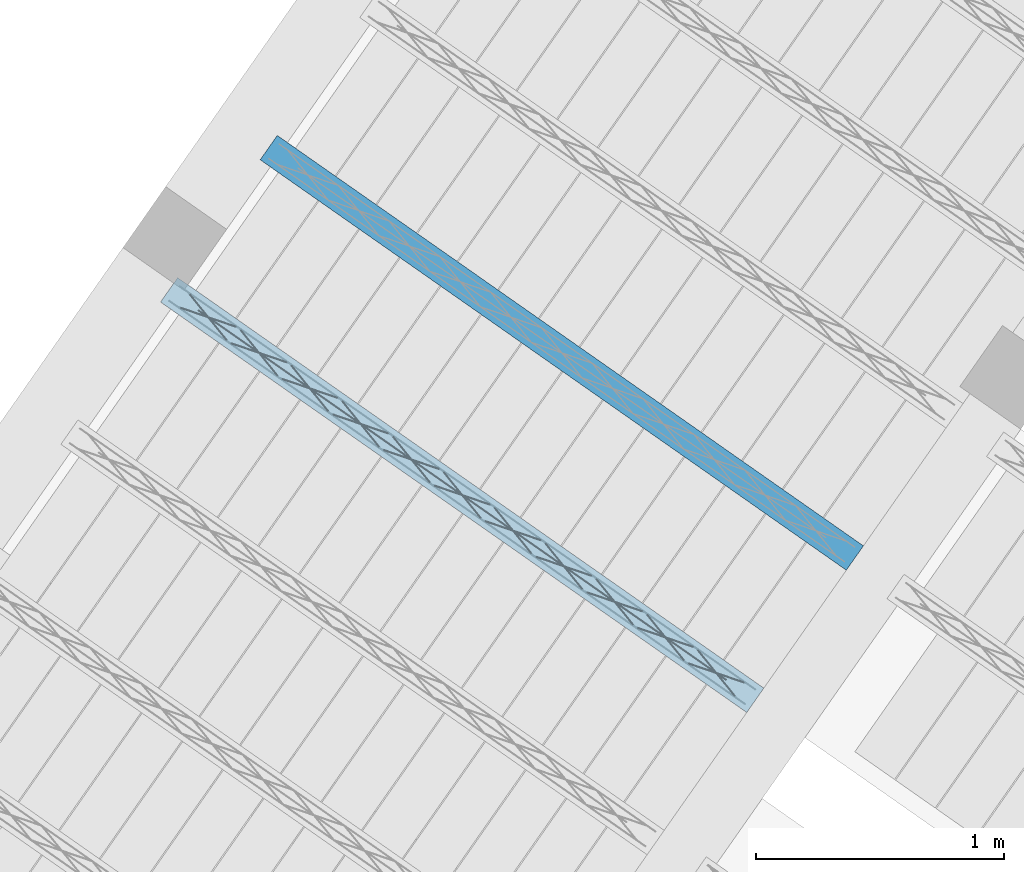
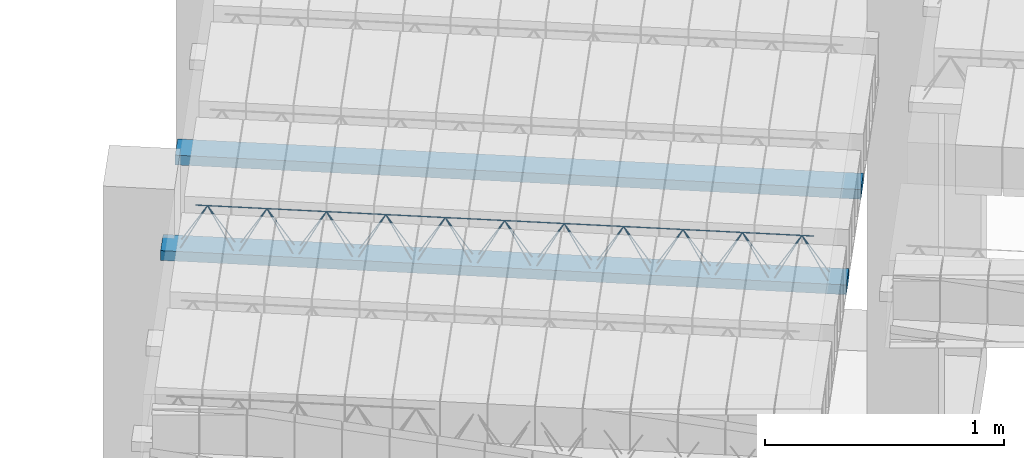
# One storey, part 33 of 80: 2 beams.
"""IFC2X3 building model written with IfcOpenShell, lengths in metres."""

from ifc_helpers import new_model, entity, si_unit, converted_unit, derived_unit, direction, frame, frame_2d, origin, origin_2d_with_axis, place, context, subcontext, project, spatial, rectangle, circle, extrude, material, type_object, element, save


model = new_model("IFC2X3")

# Units and contexts
model_context = context("Model", 3, precision=1e-05, world=origin(), true_north=direction((6.123031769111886e-17, 1.0)))
body_context = subcontext(model_context, "Body", "Model", "MODEL_VIEW")
ifc_project = project(units=[si_unit("LENGTHUNIT", "METRE"), si_unit("AREAUNIT", "SQUARE_METRE"), si_unit("VOLUMEUNIT", "CUBIC_METRE"), converted_unit("PLANEANGLEUNIT", "DEGREE", entity("IfcPlaneAngleMeasure", 0.017453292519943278), si_unit("PLANEANGLEUNIT", "RADIAN"), dimensions=[0, 0, 0, 0, 0, 0, 0]), si_unit("MASSUNIT", "GRAM", prefix="KILO"), derived_unit("MASSDENSITYUNIT", [(si_unit("MASSUNIT", "GRAM", prefix="KILO"), 1), (si_unit("LENGTHUNIT", "METRE"), -3)]), derived_unit("IONCONCENTRATIONUNIT", [(si_unit("MASSUNIT", "GRAM", prefix="KILO"), 1), (si_unit("LENGTHUNIT", "METRE"), -3)]), derived_unit("MOMENTOFINERTIAUNIT", [(si_unit("LENGTHUNIT", "METRE"), 4)]), si_unit("TIMEUNIT", "SECOND"), si_unit("FREQUENCYUNIT", "HERTZ"), si_unit("THERMODYNAMICTEMPERATUREUNIT", "DEGREE_CELSIUS"), derived_unit("THERMALTRANSMITTANCEUNIT", [(si_unit("MASSUNIT", "GRAM", prefix="KILO"), 1), (si_unit("THERMODYNAMICTEMPERATUREUNIT", "KELVIN"), -1), (si_unit("TIMEUNIT", "SECOND"), -3)]), derived_unit("THERMALCONDUCTANCEUNIT", [(si_unit("MASSUNIT", "GRAM", prefix="KILO"), 1), (si_unit("THERMODYNAMICTEMPERATUREUNIT", "KELVIN"), -1), (si_unit("TIMEUNIT", "SECOND"), -3), (si_unit("LENGTHUNIT", "METRE"), 1)]), derived_unit("VOLUMETRICFLOWRATEUNIT", [(si_unit("LENGTHUNIT", "METRE", prefix="DECI"), 3), (si_unit("TIMEUNIT", "SECOND"), -1)]), derived_unit("MASSFLOWRATEUNIT", [(si_unit("MASSUNIT", "GRAM", prefix="KILO"), 1), (si_unit("TIMEUNIT", "SECOND"), -1)]), derived_unit("ROTATIONALFREQUENCYUNIT", [(si_unit("TIMEUNIT", "SECOND"), -1)]), si_unit("ELECTRICCURRENTUNIT", "AMPERE"), si_unit("ELECTRICVOLTAGEUNIT", "VOLT"), si_unit("POWERUNIT", "WATT"), si_unit("FORCEUNIT", "NEWTON", prefix="KILO"), si_unit("ILLUMINANCEUNIT", "LUX"), si_unit("LUMINOUSFLUXUNIT", "LUMEN"), si_unit("LUMINOUSINTENSITYUNIT", "CANDELA"), si_unit("ENERGYUNIT", "JOULE"), derived_unit("USERDEFINED", [(si_unit("MASSUNIT", "GRAM", prefix="KILO"), -1), (si_unit("LENGTHUNIT", "METRE"), -2), (si_unit("TIMEUNIT", "SECOND"), 3), (si_unit("LUMINOUSFLUXUNIT", "LUMEN"), 1)]), derived_unit("USERDEFINED", [(si_unit("MASSUNIT", "GRAM", prefix="KILO"), 1), (si_unit("TIMEUNIT", "SECOND"), -3), (si_unit("LENGTHUNIT", "METRE"), 3), (si_unit("ELECTRICCURRENTUNIT", "AMPERE"), -2)]), derived_unit("SOUNDPOWERUNIT", [(si_unit("MASSUNIT", "GRAM", prefix="KILO"), 1), (si_unit("TIMEUNIT", "SECOND"), -3), (si_unit("LENGTHUNIT", "METRE"), 2)]), derived_unit("SOUNDPRESSUREUNIT", [(si_unit("MASSUNIT", "GRAM", prefix="KILO"), 1), (si_unit("LENGTHUNIT", "METRE"), -1), (si_unit("TIMEUNIT", "SECOND"), -2)]), derived_unit("LINEARVELOCITYUNIT", [(si_unit("LENGTHUNIT", "METRE"), 1), (si_unit("TIMEUNIT", "SECOND"), -1)]), si_unit("PRESSUREUNIT", "PASCAL"), derived_unit("USERDEFINED", [(si_unit("MASSUNIT", "GRAM", prefix="KILO"), 1), (si_unit("LENGTHUNIT", "METRE"), -2), (si_unit("TIMEUNIT", "SECOND"), -2)]), derived_unit("LINEARFORCEUNIT", [(si_unit("MASSUNIT", "GRAM", prefix="KILO"), 1), (si_unit("TIMEUNIT", "SECOND"), -2)]), derived_unit("PLANARFORCEUNIT", [(si_unit("MASSUNIT", "GRAM", prefix="KILO"), 1), (si_unit("LENGTHUNIT", "METRE"), -1), (si_unit("TIMEUNIT", "SECOND"), -2)]), derived_unit("SPECIFICHEATCAPACITYUNIT", [(si_unit("THERMODYNAMICTEMPERATUREUNIT", "KELVIN"), -1), (si_unit("LENGTHUNIT", "METRE"), 2), (si_unit("TIMEUNIT", "SECOND"), -2)]), derived_unit("HEATFLUXDENSITYUNIT", [(si_unit("MASSUNIT", "GRAM", prefix="KILO"), 1), (si_unit("TIMEUNIT", "SECOND"), -3)]), derived_unit("HEATINGVALUEUNIT", [(si_unit("LENGTHUNIT", "METRE"), 2), (si_unit("TIMEUNIT", "SECOND"), -2)]), derived_unit("VAPORPERMEABILITYUNIT", [(si_unit("LENGTHUNIT", "METRE"), -1), (si_unit("TIMEUNIT", "SECOND"), 1)]), derived_unit("DYNAMICVISCOSITYUNIT", [(si_unit("MASSUNIT", "GRAM", prefix="KILO"), 1), (si_unit("TIMEUNIT", "SECOND"), -1), (si_unit("LENGTHUNIT", "METRE"), -1)]), derived_unit("THERMALEXPANSIONCOEFFICIENTUNIT", [(si_unit("THERMODYNAMICTEMPERATUREUNIT", "KELVIN"), -1)]), derived_unit("MODULUSOFELASTICITYUNIT", [(si_unit("MASSUNIT", "GRAM", prefix="KILO"), 1), (si_unit("LENGTHUNIT", "METRE"), -1), (si_unit("TIMEUNIT", "SECOND"), -2)]), derived_unit("ISOTHERMALMOISTURECAPACITYUNIT", [(si_unit("MASSUNIT", "GRAM", prefix="KILO"), -1), (si_unit("LENGTHUNIT", "METRE"), 3)]), derived_unit("MOISTUREDIFFUSIVITYUNIT", [(si_unit("TIMEUNIT", "SECOND"), -1), (si_unit("LENGTHUNIT", "METRE"), 2)]), derived_unit("MASSPERLENGTHUNIT", [(si_unit("MASSUNIT", "GRAM", prefix="KILO"), 1), (si_unit("LENGTHUNIT", "METRE"), -1)]), derived_unit("THERMALRESISTANCEUNIT", [(si_unit("MASSUNIT", "GRAM", prefix="KILO"), -1), (si_unit("TIMEUNIT", "SECOND"), 3), (si_unit("THERMODYNAMICTEMPERATUREUNIT", "KELVIN"), 1)]), derived_unit("ACCELERATIONUNIT", [(si_unit("LENGTHUNIT", "METRE"), 1), (si_unit("TIMEUNIT", "SECOND"), -2)]), derived_unit("ANGULARVELOCITYUNIT", [(si_unit("TIMEUNIT", "SECOND"), -1), (si_unit("PLANEANGLEUNIT", "RADIAN"), 1)]), derived_unit("LINEARSTIFFNESSUNIT", [(si_unit("MASSUNIT", "GRAM", prefix="KILO"), 1), (si_unit("TIMEUNIT", "SECOND"), -2)]), derived_unit("WARPINGCONSTANTUNIT", [(si_unit("LENGTHUNIT", "METRE"), 6)]), derived_unit("LINEARMOMENTUNIT", [(si_unit("MASSUNIT", "GRAM", prefix="KILO"), 1), (si_unit("LENGTHUNIT", "METRE"), 1), (si_unit("TIMEUNIT", "SECOND"), -2)]), derived_unit("TORQUEUNIT", [(si_unit("MASSUNIT", "GRAM", prefix="KILO"), 1), (si_unit("LENGTHUNIT", "METRE"), 2), (si_unit("TIMEUNIT", "SECOND"), -2)])], contexts=[model_context])

# Site, building, storey
site_placement = place(None, origin())
site = spatial("IfcSite", under=ifc_project, at=site_placement, Name="Default", CompositionType="ELEMENT")
building_placement = place(site_placement, origin())
building = spatial("IfcBuilding", under=site, at=building_placement, CompositionType="ELEMENT")
storey_placement = place(building_placement, frame((0.0, 0.0, 95.94)))
storey = spatial("IfcBuildingStorey", under=building, at=storey_placement, Name="PB", CompositionType="ELEMENT", Elevation=95.94)

# Beams
beam_type = type_object("IfcBeamType", Name="Vigueta 10 (Paño 2) (Mf = 10.63)", PredefinedType="JOIST")
beam_1_placement = place(storey_placement, origin())
element("IfcBeam", 1, at=beam_1_placement, inside=storey, type_object=beam_type, Name="Vigueta 10 (Paño 2) (Mf = 10.63)", ObjectType="Mf = 10.63", context=body_context, shape_type="SweptSolid", body=[
    extrude(rectangle(XDim=2.884461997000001, YDim=0.12000000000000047, at=frame_2d((-3.3306690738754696e-16, -6.591949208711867e-17), x_axis=(1.0, 0.0))), frame((3.614935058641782, 7.052220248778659, 2.82), z_axis=(0.0, 0.0, 1.0), x_axis=(0.8191520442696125, -0.5735764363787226, 0.0)), (0.0, 0.0, 1.0), 0.04999999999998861),
    extrude(circle(Radius=0.0025, at=origin_2d_with_axis()), frame((2.4325394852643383, 7.836194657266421, 2.8449999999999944), z_axis=(0.8191520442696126, -0.5735764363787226, 0.0), x_axis=(-0.5735764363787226, -0.8191520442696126, 0.0)), (0.0, 0.0, 1.0), 2.836461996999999),
    extrude(circle(Radius=0.0025, at=origin_2d_with_axis()), frame((2.5500374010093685, 7.797869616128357, 3.069999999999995), z_axis=(0.8191520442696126, -0.5735764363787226, 0.0), x_axis=(-0.5735764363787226, -0.8191520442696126, 0.0)), (0.0, 0.0, 1.0), 2.6),
    extrude(circle(Radius=0.0025, at=origin_2d_with_axis()), frame((4.720620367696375, 6.2340631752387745, 2.8449999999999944), z_axis=(-0.3145304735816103, 0.389334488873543, 0.8657304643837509), x_axis=(-0.7778747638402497, -0.6284193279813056, 0.0)), (0.0, 0.0, 1.0), 0.2598961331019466),
    extrude(circle(Radius=0.0025, at=origin_2d_with_axis()), frame((4.515832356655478, 6.377457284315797, 2.8449999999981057), z_axis=(0.47343050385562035, -0.1624017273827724, 0.8657304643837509), x_axis=(-0.3244721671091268, -0.9458952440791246, 0.0)), (0.0, 0.0, 1.0), 0.25989613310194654),
    extrude(circle(Radius=0.0025, at=origin_2d_with_axis()), frame((4.515832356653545, 6.3774572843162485, 2.8449999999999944), z_axis=(-0.3145304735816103, 0.389334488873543, 0.8657304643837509), x_axis=(-0.7778747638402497, -0.6284193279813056, 0.0)), (0.0, 0.0, 1.0), 0.2598961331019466),
    extrude(circle(Radius=0.0025, at=origin_2d_with_axis()), frame((4.311044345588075, 6.520851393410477, 2.8449999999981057), z_axis=(0.47343050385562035, -0.1624017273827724, 0.8657304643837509), x_axis=(-0.3244721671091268, -0.9458952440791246, 0.0)), (0.0, 0.0, 1.0), 0.25989613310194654),
    extrude(circle(Radius=0.0025, at=origin_2d_with_axis()), frame((4.311044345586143, 6.520851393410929, 2.8449999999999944), z_axis=(-0.3145304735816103, 0.389334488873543, 0.8657304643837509), x_axis=(-0.7778747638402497, -0.6284193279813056, 0.0)), (0.0, 0.0, 1.0), 0.2598961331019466),
    extrude(circle(Radius=0.0025, at=origin_2d_with_axis()), frame((4.106256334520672, 6.664245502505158, 2.8449999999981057), z_axis=(0.47343050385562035, -0.1624017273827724, 0.8657304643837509), x_axis=(-0.3244721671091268, -0.9458952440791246, 0.0)), (0.0, 0.0, 1.0), 0.25989613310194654),
    extrude(circle(Radius=0.0025, at=origin_2d_with_axis()), frame((4.106256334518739, 6.664245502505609, 2.8449999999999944), z_axis=(-0.3145304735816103, 0.389334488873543, 0.8657304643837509), x_axis=(-0.7778747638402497, -0.6284193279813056, 0.0)), (0.0, 0.0, 1.0), 0.2598961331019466),
    extrude(circle(Radius=0.0025, at=origin_2d_with_axis()), frame((3.901468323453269, 6.807639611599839, 2.8449999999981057), z_axis=(0.47343050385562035, -0.1624017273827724, 0.8657304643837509), x_axis=(-0.3244721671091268, -0.9458952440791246, 0.0)), (0.0, 0.0, 1.0), 0.25989613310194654),
    extrude(circle(Radius=0.0025, at=origin_2d_with_axis()), frame((3.9014683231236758, 6.807639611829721, 2.8449999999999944), z_axis=(-0.3145304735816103, 0.389334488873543, 0.8657304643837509), x_axis=(-0.7778747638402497, -0.6284193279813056, 0.0)), (0.0, 0.0, 1.0), 0.2598961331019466),
    extrude(circle(Radius=0.0025, at=origin_2d_with_axis()), frame((3.6966803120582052, 6.95103372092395, 2.8449999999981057), z_axis=(0.47343050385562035, -0.1624017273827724, 0.8657304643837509), x_axis=(-0.3244721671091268, -0.9458952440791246, 0.0)), (0.0, 0.0, 1.0), 0.25989613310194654),
    extrude(circle(Radius=0.0025, at=origin_2d_with_axis()), frame((3.696680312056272, 6.951033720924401, 2.8449999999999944), z_axis=(-0.3145304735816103, 0.389334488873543, 0.8657304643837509), x_axis=(-0.7778747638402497, -0.6284193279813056, 0.0)), (0.0, 0.0, 1.0), 0.2598961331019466),
    extrude(circle(Radius=0.0025, at=origin_2d_with_axis()), frame((3.4918923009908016, 7.094427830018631, 2.8449999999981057), z_axis=(0.47343050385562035, -0.1624017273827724, 0.8657304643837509), x_axis=(-0.3244721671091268, -0.9458952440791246, 0.0)), (0.0, 0.0, 1.0), 0.25989613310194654),
    extrude(circle(Radius=0.0025, at=origin_2d_with_axis()), frame((3.4918923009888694, 7.0944278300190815, 2.8449999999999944), z_axis=(-0.3145304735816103, 0.389334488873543, 0.8657304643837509), x_axis=(-0.7778747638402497, -0.6284193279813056, 0.0)), (0.0, 0.0, 1.0), 0.2598961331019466),
    extrude(circle(Radius=0.0025, at=origin_2d_with_axis()), frame((3.287104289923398, 7.237821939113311, 2.8449999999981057), z_axis=(0.47343050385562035, -0.1624017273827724, 0.8657304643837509), x_axis=(-0.3244721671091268, -0.9458952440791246, 0.0)), (0.0, 0.0, 1.0), 0.25989613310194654),
    extrude(circle(Radius=0.0025, at=origin_2d_with_axis()), frame((3.287104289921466, 7.237821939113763, 2.8449999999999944), z_axis=(-0.3145304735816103, 0.389334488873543, 0.8657304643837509), x_axis=(-0.7778747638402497, -0.6284193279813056, 0.0)), (0.0, 0.0, 1.0), 0.2598961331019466),
    extrude(circle(Radius=0.0025, at=origin_2d_with_axis()), frame((3.0823162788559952, 7.381216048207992, 2.8449999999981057), z_axis=(0.47343050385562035, -0.1624017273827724, 0.8657304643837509), x_axis=(-0.3244721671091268, -0.9458952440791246, 0.0)), (0.0, 0.0, 1.0), 0.25989613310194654),
    extrude(circle(Radius=0.0025, at=origin_2d_with_axis()), frame((3.082316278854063, 7.381216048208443, 2.8449999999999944), z_axis=(-0.3145304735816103, 0.389334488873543, 0.8657304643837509), x_axis=(-0.7778747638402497, -0.6284193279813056, 0.0)), (0.0, 0.0, 1.0), 0.2598961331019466),
    extrude(circle(Radius=0.0025, at=origin_2d_with_axis()), frame((2.8775282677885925, 7.524610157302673, 2.8449999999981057), z_axis=(0.47343050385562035, -0.1624017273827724, 0.8657304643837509), x_axis=(-0.3244721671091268, -0.9458952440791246, 0.0)), (0.0, 0.0, 1.0), 0.25989613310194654),
    extrude(circle(Radius=0.0025, at=origin_2d_with_axis()), frame((2.8775282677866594, 7.524610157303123, 2.8449999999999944), z_axis=(-0.3145304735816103, 0.389334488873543, 0.8657304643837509), x_axis=(-0.7778747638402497, -0.6284193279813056, 0.0)), (0.0, 0.0, 1.0), 0.2598961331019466),
    extrude(circle(Radius=0.0025, at=origin_2d_with_axis()), frame((2.6727402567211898, 7.668004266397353, 2.8449999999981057), z_axis=(0.47343050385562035, -0.1624017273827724, 0.8657304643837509), x_axis=(-0.3244721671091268, -0.9458952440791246, 0.0)), (0.0, 0.0, 1.0), 0.25989613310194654),
    extrude(circle(Radius=0.0025, at=origin_2d_with_axis()), frame((2.6727402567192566, 7.668004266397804, 2.8449999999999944), z_axis=(-0.3145304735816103, 0.389334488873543, 0.8657304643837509), x_axis=(-0.7778747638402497, -0.6284193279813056, 0.0)), (0.0, 0.0, 1.0), 0.2598961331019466),
    extrude(circle(Radius=0.0025, at=origin_2d_with_axis()), frame((2.4679522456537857, 7.8113983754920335, 2.8449999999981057), z_axis=(0.47343050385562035, -0.1624017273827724, 0.8657304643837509), x_axis=(-0.3244721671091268, -0.9458952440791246, 0.0)), (0.0, 0.0, 1.0), 0.25989613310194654),
    extrude(circle(Radius=0.0025, at=origin_2d_with_axis()), frame((4.797330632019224, 6.268245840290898, 2.8449999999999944), z_axis=(-0.8191520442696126, 0.5735764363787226, 0.0), x_axis=(-0.5735764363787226, -0.8191520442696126, 0.0)), (0.0, 0.0, 1.0), 2.836461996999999),
    extrude(circle(Radius=0.0025, at=origin_2d_with_axis()), frame((4.761917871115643, 6.293042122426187, 2.8449999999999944), z_axis=(-0.47343050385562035, 0.1624017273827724, 0.8657304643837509), x_axis=(-0.3244721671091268, -0.9458952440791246, 0.0)), (0.0, 0.0, 1.0), 0.25989613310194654),
    extrude(circle(Radius=0.0025, at=origin_2d_with_axis()), frame((4.557129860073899, 6.436436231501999, 2.8449999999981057), z_axis=(0.3145304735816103, -0.389334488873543, 0.8657304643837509), x_axis=(-0.7778747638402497, -0.6284193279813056, 0.0)), (0.0, 0.0, 1.0), 0.2598961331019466),
    extrude(circle(Radius=0.0025, at=origin_2d_with_axis()), frame((4.557129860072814, 6.43643623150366, 2.8449999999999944), z_axis=(-0.47343050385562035, 0.1624017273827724, 0.8657304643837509), x_axis=(-0.3244721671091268, -0.9458952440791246, 0.0)), (0.0, 0.0, 1.0), 0.25989613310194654),
    extrude(circle(Radius=0.0025, at=origin_2d_with_axis()), frame((4.352341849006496, 6.579830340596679, 2.8449999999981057), z_axis=(0.3145304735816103, -0.389334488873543, 0.8657304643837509), x_axis=(-0.7778747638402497, -0.6284193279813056, 0.0)), (0.0, 0.0, 1.0), 0.2598961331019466),
    extrude(circle(Radius=0.0025, at=origin_2d_with_axis()), frame((4.352341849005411, 6.579830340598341, 2.8449999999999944), z_axis=(-0.47343050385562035, 0.1624017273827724, 0.8657304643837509), x_axis=(-0.3244721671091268, -0.9458952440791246, 0.0)), (0.0, 0.0, 1.0), 0.25989613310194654),
    extrude(circle(Radius=0.0025, at=origin_2d_with_axis()), frame((4.147553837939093, 6.72322444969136, 2.8449999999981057), z_axis=(0.3145304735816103, -0.389334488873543, 0.8657304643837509), x_axis=(-0.7778747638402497, -0.6284193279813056, 0.0)), (0.0, 0.0, 1.0), 0.2598961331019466),
    extrude(circle(Radius=0.0025, at=origin_2d_with_axis()), frame((4.147553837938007, 6.723224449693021, 2.8449999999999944), z_axis=(-0.47343050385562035, 0.1624017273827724, 0.8657304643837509), x_axis=(-0.3244721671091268, -0.9458952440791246, 0.0)), (0.0, 0.0, 1.0), 0.25989613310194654),
    extrude(circle(Radius=0.0025, at=origin_2d_with_axis()), frame((3.94276582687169, 6.866618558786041, 2.8449999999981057), z_axis=(0.3145304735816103, -0.389334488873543, 0.8657304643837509), x_axis=(-0.7778747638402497, -0.6284193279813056, 0.0)), (0.0, 0.0, 1.0), 0.2598961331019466),
    extrude(circle(Radius=0.0025, at=origin_2d_with_axis()), frame((3.942765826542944, 6.866618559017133, 2.8449999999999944), z_axis=(-0.47343050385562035, 0.1624017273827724, 0.8657304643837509), x_axis=(-0.3244721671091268, -0.9458952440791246, 0.0)), (0.0, 0.0, 1.0), 0.25989613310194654),
    extrude(circle(Radius=0.0025, at=origin_2d_with_axis()), frame((3.737977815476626, 7.010012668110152, 2.8449999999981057), z_axis=(0.3145304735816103, -0.389334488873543, 0.8657304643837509), x_axis=(-0.7778747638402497, -0.6284193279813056, 0.0)), (0.0, 0.0, 1.0), 0.2598961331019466),
    extrude(circle(Radius=0.0025, at=origin_2d_with_axis()), frame((3.7379778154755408, 7.010012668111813, 2.8449999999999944), z_axis=(-0.47343050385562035, 0.1624017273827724, 0.8657304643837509), x_axis=(-0.3244721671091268, -0.9458952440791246, 0.0)), (0.0, 0.0, 1.0), 0.25989613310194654),
    extrude(circle(Radius=0.0025, at=origin_2d_with_axis()), frame((3.5331898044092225, 7.153406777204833, 2.8449999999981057), z_axis=(0.3145304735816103, -0.389334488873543, 0.8657304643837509), x_axis=(-0.7778747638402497, -0.6284193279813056, 0.0)), (0.0, 0.0, 1.0), 0.2598961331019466),
    extrude(circle(Radius=0.0025, at=origin_2d_with_axis()), frame((3.5331898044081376, 7.153406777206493, 2.8449999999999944), z_axis=(-0.47343050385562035, 0.1624017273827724, 0.8657304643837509), x_axis=(-0.3244721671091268, -0.9458952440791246, 0.0)), (0.0, 0.0, 1.0), 0.25989613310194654),
    extrude(circle(Radius=0.0025, at=origin_2d_with_axis()), frame((3.328401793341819, 7.296800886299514, 2.8449999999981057), z_axis=(0.3145304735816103, -0.389334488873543, 0.8657304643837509), x_axis=(-0.7778747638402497, -0.6284193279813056, 0.0)), (0.0, 0.0, 1.0), 0.2598961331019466),
    extrude(circle(Radius=0.0025, at=origin_2d_with_axis()), frame((3.328401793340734, 7.296800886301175, 2.8449999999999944), z_axis=(-0.47343050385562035, 0.1624017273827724, 0.8657304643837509), x_axis=(-0.3244721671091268, -0.9458952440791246, 0.0)), (0.0, 0.0, 1.0), 0.25989613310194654),
    extrude(circle(Radius=0.0025, at=origin_2d_with_axis()), frame((3.123613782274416, 7.440194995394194, 2.8449999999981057), z_axis=(0.3145304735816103, -0.389334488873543, 0.8657304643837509), x_axis=(-0.7778747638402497, -0.6284193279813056, 0.0)), (0.0, 0.0, 1.0), 0.2598961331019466),
    extrude(circle(Radius=0.0025, at=origin_2d_with_axis()), frame((3.123613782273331, 7.440194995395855, 2.8449999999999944), z_axis=(-0.47343050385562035, 0.1624017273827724, 0.8657304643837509), x_axis=(-0.3244721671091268, -0.9458952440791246, 0.0)), (0.0, 0.0, 1.0), 0.25989613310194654),
    extrude(circle(Radius=0.0025, at=origin_2d_with_axis()), frame((2.9188257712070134, 7.583589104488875, 2.8449999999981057), z_axis=(0.3145304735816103, -0.389334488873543, 0.8657304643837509), x_axis=(-0.7778747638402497, -0.6284193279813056, 0.0)), (0.0, 0.0, 1.0), 0.2598961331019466),
    extrude(circle(Radius=0.0025, at=origin_2d_with_axis()), frame((2.9188257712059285, 7.583589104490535, 2.8449999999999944), z_axis=(-0.47343050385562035, 0.1624017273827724, 0.8657304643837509), x_axis=(-0.3244721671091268, -0.9458952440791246, 0.0)), (0.0, 0.0, 1.0), 0.25989613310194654),
    extrude(circle(Radius=0.0025, at=origin_2d_with_axis()), frame((2.7140377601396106, 7.726983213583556, 2.8449999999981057), z_axis=(0.3145304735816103, -0.389334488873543, 0.8657304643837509), x_axis=(-0.7778747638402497, -0.6284193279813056, 0.0)), (0.0, 0.0, 1.0), 0.2598961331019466),
    extrude(circle(Radius=0.0025, at=origin_2d_with_axis()), frame((2.714037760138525, 7.726983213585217, 2.8449999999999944), z_axis=(-0.47343050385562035, 0.1624017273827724, 0.8657304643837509), x_axis=(-0.3244721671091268, -0.9458952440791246, 0.0)), (0.0, 0.0, 1.0), 0.25989613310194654),
    extrude(circle(Radius=0.0025, at=origin_2d_with_axis()), frame((2.5092497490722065, 7.870377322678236, 2.8449999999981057), z_axis=(0.3145304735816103, -0.389334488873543, 0.8657304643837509), x_axis=(-0.7778747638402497, -0.6284193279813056, 0.0)), (0.0, 0.0, 1.0), 0.2598961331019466),
])
ifc_material = material(Name="Hormigón armado")
beam_2_placement = place(storey_placement, origin())
element("IfcBeam", 2, at=beam_2_placement, inside=storey, material=ifc_material, Name="237987", context=body_context, shape_type="SweptSolid", body=[
    extrude(rectangle(XDim=0.04999999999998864, YDim=0.11999999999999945, at=frame_2d((1.7324683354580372e-14, 1.5265566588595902e-16), x_axis=(1.0, 0.0))), frame((2.835060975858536, 8.452836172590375, 2.8450000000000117), z_axis=(0.819152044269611, -0.5735764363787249, 0.0), x_axis=(0.0, 0.0, -1.0)), (0.0, 0.0, 1.0), 2.884426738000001),
])

save(model, "model.ifc")
